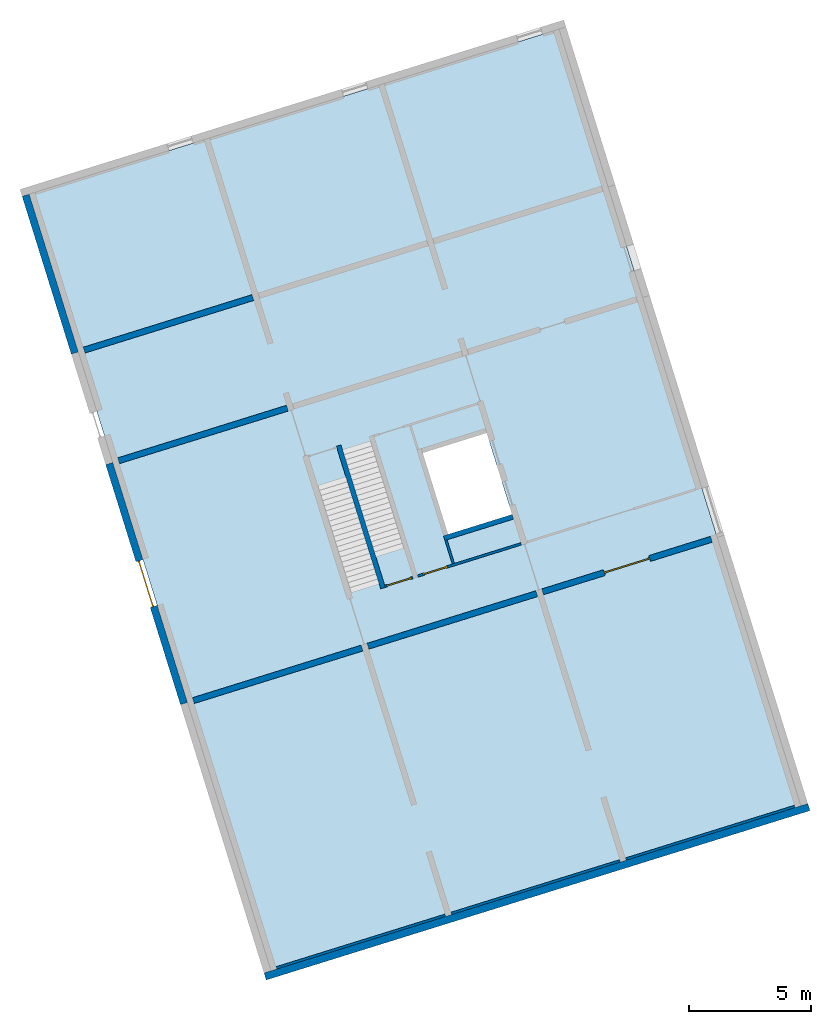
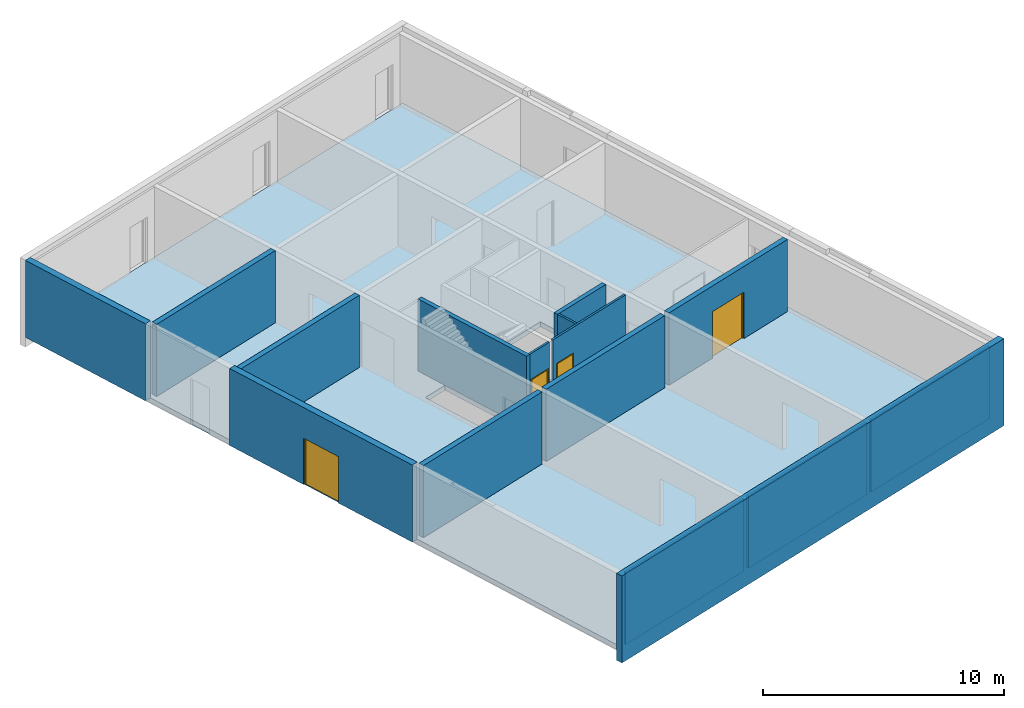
# One storey, part 1 of 5: 16 walls, 4 doors, 1 slab, 9 openings.
"""IFC4 building model written with IfcOpenShell, lengths in metres."""

from ifc_helpers import new_model, entity, si_unit, converted_unit, direction, frame, origin, place, context, subcontext, project, spatial, indexed_curve, outline, extrude, polygons, source, transform, mapped, material, constituent, constituent_set, type_object, type_shapes, element, fill, save


model = new_model("IFC4")

# Units and contexts
model_context = context("Model", 3, precision=1e-05, world=origin(), true_north=direction((6.12323399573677e-17, 1.0)))
body_context = subcontext(model_context, "Body", "Model", "MODEL_VIEW")
ifc_project = project(units=[si_unit("LENGTHUNIT", "METRE"), si_unit("AREAUNIT", "SQUARE_METRE"), si_unit("VOLUMEUNIT", "CUBIC_METRE"), converted_unit("PLANEANGLEUNIT", "DEGREE", entity("IfcPlaneAngleMeasure", 0.0174532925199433), si_unit("PLANEANGLEUNIT", "RADIAN"), dimensions=[0, 0, 0, 0, 0, 0, 0])], contexts=[model_context])

# Site, building, storey
site_placement = place(None, frame((13.1347999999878, 11.9886000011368, 0.0), z_axis=(0.0, 0.0, 1.0), x_axis=(0.954770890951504, 0.297342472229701, 0.0)))
site = spatial("IfcSite", under=ifc_project, at=site_placement, Name="Schiehaven", CompositionType="ELEMENT")
building_placement = place(site_placement, origin())
building = spatial("IfcBuilding", under=site, at=building_placement, Name="VORM huis", CompositionType="ELEMENT")
storey_placement = place(building_placement, origin())
storey = spatial("IfcBuildingStorey", under=building, at=storey_placement, Name="00 begane grond", CompositionType="ELEMENT", Elevation=0.0)

# Slab, openings
ifc_material_1 = material(Name="beton_gewapend_ihw", Category="Miscellaneous")
slab_type = type_object("IfcSlabType", Name="Floor:28_FL_skelet_vloer 250mm", PredefinedType="FLOOR", material=ifc_material_1)
slab_placement = place(storey_placement, origin())
slab = element("IfcSlab", 1, at=slab_placement, inside=storey, type_object=slab_type, material=ifc_material_1, Name="Constructieve vloer", ObjectType="Vloer", PredefinedType="FLOOR", context=body_context, shape_type="SweptSolid", body=[
    extrude(outline(indexed_curve([(-16.6749999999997, -11.3749999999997), (16.6749999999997, -11.3749999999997), (16.6749999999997, 11.3749999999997), (-16.6749999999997, 11.3749999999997), (-16.6749999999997, -11.3749999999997)], self_intersect=False), holes=[indexed_curve([(1.75000000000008, 3.62500000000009), (1.75000000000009, 0.87500000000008), (-1.7499999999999, 0.875000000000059), (-1.74999999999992, 3.62500000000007), (1.75000000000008, 3.62500000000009)], self_intersect=False), indexed_curve([(1.54000000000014, -1.02500000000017), (1.54000000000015, -2.22500000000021), (-1.75999999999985, -2.22500000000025), (-1.75999999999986, -1.02500000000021), (1.54000000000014, -1.02500000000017)], self_intersect=False), indexed_curve([(-1.53999999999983, -3.62500000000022), (-1.53999999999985, -2.42499999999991), (1.76000000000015, -2.42499999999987), (1.76000000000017, -3.62500000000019), (-1.53999999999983, -3.62500000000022)], self_intersect=False)]), frame((68.7500000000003, 17.0499999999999, -0.25), z_axis=(0.0, 0.0, 1.0), x_axis=(0.0, -1.0, 0.0)), (0.0, 0.0, 1.0), 0.25),
])
opening_1_placement = place(slab_placement, origin())
element("IfcOpeningElement", 2, at=opening_1_placement, cuts=slab, Name="Constructieve vloer", PredefinedType="OPENING", context=body_context, shape_type="SweptSolid", body=[
    extrude(outline(indexed_curve([(-1.75, -1.375), (1.75, -1.375), (1.75, 1.37500000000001), (-1.75, 1.37500000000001), (-1.75, -1.375)], self_intersect=False)), frame((71.0, 17.0499999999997, -0.25), z_axis=(0.0, 0.0, 1.0), x_axis=(0.0, 1.0, 0.0)), (0.0, 0.0, 1.0), 0.25),
])
opening_2_placement = place(slab_placement, origin())
element("IfcOpeningElement", 3, at=opening_2_placement, cuts=slab, Name="Constructieve vloer", PredefinedType="OPENING", context=body_context, shape_type="SweptSolid", body=[
    extrude(outline(indexed_curve([(-1.65, -0.60000000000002), (1.65, -0.60000000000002), (1.65, 0.60000000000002), (-1.65, 0.60000000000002), (-1.65, -0.60000000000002)], self_intersect=False)), frame((67.1250000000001, 17.1599999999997, -0.25), z_axis=(0.0, 0.0, 1.0), x_axis=(0.0, 1.0, 0.0)), (0.0, 0.0, 1.0), 0.25),
])

# Walls
wall_type_1 = type_object("IfcWallType", Name="Basic Wall:28_WA_skelet_wand 250mm_gen", PredefinedType="STANDARD")
wall_1_placement = place(storey_placement, frame((65.1250000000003, 11.8999999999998, 0.0)))
element("IfcWall", 4, at=wall_1_placement, inside=storey, type_object=wall_type_1, material=ifc_material_1, Name="Constructieve wand", ObjectType="Wand", PredefinedType="NOTDEFINED", context=body_context, shape_type="SweptSolid", body=[
    extrude(outline(indexed_curve([(7.24999999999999, 0.124999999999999), (1.69940164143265e-15, 0.125), (-1.69940164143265e-15, -0.125), (7.24999999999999, -0.125000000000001), (7.24999999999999, 0.124999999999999)], self_intersect=False)), origin(), (0.0, 0.0, 1.0), 3.65),
])
ifc_material_2 = material(Name="ntb_ntb_ntb", Category="Miscellaneous")
wall_type_2 = type_object("IfcWallType", Name="Basic Wall:21_WA_gevel_binnenspouwwand 100mm_gen", PredefinedType="STANDARD")
wall_2_placement = place(storey_placement, frame((79.8750000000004, 0.424999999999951, 0.0), z_axis=(0.0, 0.0, 1.0), x_axis=(-1.0, 0.0, 0.0)))
element("IfcWall", 5, at=wall_2_placement, inside=storey, type_object=wall_type_2, material=ifc_material_2, Name="Binnenspouwblad", ObjectType="Wand", PredefinedType="NOTDEFINED", context=body_context, shape_type="SweptSolid", body=[
    extrude(outline(indexed_curve([(7.24999999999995, 0.05), (8.31549082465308e-16, 0.05), (-8.31549082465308e-16, -0.05), (7.24999999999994, -0.05), (7.24999999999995, 0.05)], self_intersect=False)), origin(), (0.0, 0.0, 1.0), 3.65),
])
wall_3_placement = place(storey_placement, frame((65.1250000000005, 0.424999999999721, 0.0)))
element("IfcWall", 6, at=wall_3_placement, inside=storey, type_object=wall_type_2, material=ifc_material_2, Name="Binnenspouwblad", ObjectType="Wand", PredefinedType="NOTDEFINED", context=body_context, shape_type="SweptSolid", body=[
    extrude(outline(indexed_curve([(7.24999999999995, 0.05), (9.8574233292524e-16, 0.05), (-9.8574233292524e-16, -0.05), (7.24999999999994, -0.05), (7.24999999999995, 0.05)], self_intersect=False)), origin(), (0.0, 0.0, 1.0), 3.65),
])
wall_4_placement = place(storey_placement, frame((64.8750000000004, 0.424999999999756, 0.0), z_axis=(0.0, 0.0, 1.0), x_axis=(-1.0, 0.0, 0.0)))
element("IfcWall", 7, at=wall_4_placement, inside=storey, type_object=wall_type_2, material=ifc_material_2, Name="Binnenspouwblad", ObjectType="Wand", PredefinedType="NOTDEFINED", context=body_context, shape_type="SweptSolid", body=[
    extrude(outline(indexed_curve([(7.24999999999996, 0.05), (8.31549082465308e-16, 0.05), (-8.31549082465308e-16, -0.05), (7.24999999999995, -0.05), (7.24999999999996, 0.05)], self_intersect=False)), origin(), (0.0, 0.0, 1.0), 3.65),
])
wall_type_3 = type_object("IfcWallType", Name="Basic Wall: 300mm_gen", PredefinedType="STANDARD")
wall_5_placement = place(storey_placement, frame((57.0750000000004, 0.224999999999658, -0.5)))
element("IfcWall", 8, at=wall_5_placement, inside=storey, type_object=wall_type_3, material=ifc_material_2, Name="Gevelwand", ObjectType="Wand", PredefinedType="NOTDEFINED", context=body_context, shape_type="SweptSolid", body=[
    extrude(outline(indexed_curve([(23.3500000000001, 0.15), (2.24820162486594e-15, 0.15), (-2.24820162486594e-15, -0.15), (23.35, -0.15), (23.3500000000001, 0.15)], self_intersect=False)), origin(), (0.0, 0.0, 1.0), 4.4),
])
wall_6_placement = place(storey_placement, frame((57.2249999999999, 33.7249999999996, 0.0), z_axis=(0.0, 0.0, 1.0), x_axis=(0.0, -1.0, 0.0)))
element("IfcWall", 9, at=wall_6_placement, inside=storey, type_object=wall_type_3, material=ifc_material_2, Name="Gevelwand", ObjectType="Wand", PredefinedType="NOTDEFINED", context=body_context, shape_type="SweptSolid", body=[
    extrude(outline(indexed_curve([(6.77500000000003, 0.150000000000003), (2.25173814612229e-15, 0.150000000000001), (6.41119888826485e-15, -0.150000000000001), (6.77500000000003, -0.149999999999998), (6.77500000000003, 0.150000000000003)], self_intersect=False)), origin(), (0.0, 0.0, 1.0), 3.9),
])

# Wall, openings, door
wall_7_placement = place(storey_placement, frame((57.2250000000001, 22.1999999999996, 0.0), z_axis=(0.0, 0.0, 1.0), x_axis=(0.0, -1.0, 0.0)))
wall_7 = element("IfcWall", 10, at=wall_7_placement, inside=storey, type_object=wall_type_3, material=ifc_material_2, Name="Gevelwand", ObjectType="Wand", PredefinedType="NOTDEFINED", context=body_context, shape_type="Tessellation", body=[
    polygons([(6.13249999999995, -0.15, 2.34999999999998), (6.13249999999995, -0.15, 0.0), (10.2999999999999, -0.150000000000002, 0.0), (10.2999999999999, -0.150000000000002, 3.9), (0.0, -0.149999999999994, 3.9), (0.0, -0.149999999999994, 0.0), (4.16749999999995, -0.149999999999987, 0.0), (4.16749999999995, -0.149999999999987, 2.34999999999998), (10.3, 0.149999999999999, 0.0), (6.13249999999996, 0.150000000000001, 0.0), (6.13249999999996, 0.150000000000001, 2.34999999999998), (4.16749999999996, 0.150000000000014, 2.34999999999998), (4.16749999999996, 0.150000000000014, 0.0), (4.33146851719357e-15, 0.150000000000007, 0.0), (4.33146851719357e-15, 0.150000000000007, 3.9), (10.3, 0.149999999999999, 3.9)], [[[1, 2, 3, 4, 5, 6, 7, 8]], [[9, 10, 11, 12, 13, 14, 15, 16]], [[7, 6, 14, 13]], [[4, 3, 9, 16]], [[5, 4, 16, 15]], [[6, 5, 15, 14]], [[12, 11, 1, 8]], [[11, 10, 2, 1]], [[13, 12, 8, 7]], [[3, 2, 10, 9]]], closed=True),
])
opening_3_placement = place(wall_7_placement, frame((6.13249999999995, 0.150000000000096, 0.0)))
opening_3 = element("IfcOpeningElement", 11, at=opening_3_placement, cuts=wall_7, Name="Vluchtdeur", PredefinedType="OPENING", context=body_context, shape_type="SweptSolid", body=[
    extrude(outline(indexed_curve([(2.34999999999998, 1.965), (0.0, 1.965), (0.0, 0.0), (2.34999999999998, 0.0), (2.34999999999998, 1.965)], self_intersect=False)), frame((0.0, 0.0, 0.0), z_axis=(0.0, -1.0, 0.0), x_axis=(0.0, 0.0, 1.0)), (0.0, 0.0, 1.0), 0.3),
])
opening_4_placement = place(wall_7_placement, frame((22.1999999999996, -57.2250000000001, 0.0), z_axis=(0.0, 0.0, 1.0), x_axis=(0.0, 1.0, 0.0)))
element("IfcOpeningElement", 12, at=opening_4_placement, cuts=wall_7, Name="Vluchtdeur", PredefinedType="OPENING", context=body_context, shape_type="SweptSolid", body=[
    extrude(outline(indexed_curve([(-0.982500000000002, -1.17499999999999), (0.982500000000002, -1.17499999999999), (0.9825, 1.17499999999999), (-0.982500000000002, 1.17499999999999), (-0.982500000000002, -1.17499999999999)], self_intersect=False)), frame((55.8510000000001, 17.0499999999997, 1.17499999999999), z_axis=(1.0, 0.0, 0.0), x_axis=(0.0, -1.0, 0.0)), (0.0, 0.0, 1.0), 3.048),
])
ifc_material_3 = material(Name="PD_a_buitenwandopeningen", Category="Miscellaneous")
ifc_constituent_1 = constituent(ifc_material_3, Name="PD_a_buitenwandopeningen", Category="Miscellaneous")
ifc_material_4 = material(Name="metaal_aluminium_ntb", Category="Miscellaneous")
ifc_constituent_2 = constituent(ifc_material_4, Name="metaal_aluminium_ntb", Category="Miscellaneous")
ifc_constituent_set_1 = constituent_set(constituents=[ifc_constituent_1, ifc_constituent_2])
ifc_constituent_3 = constituent(ifc_material_3, Name="PD_a_buitenwandopeningen", Category="Miscellaneous")
ifc_constituent_4 = constituent(ifc_material_4, Name="Panel", Category="Miscellaneous")
ifc_constituent_set_2 = constituent_set(constituents=[ifc_constituent_3, ifc_constituent_4])
door_type_1 = type_object("IfcDoorType", Name="31_DO_buitendeur dubbel:buitendeur zelfsluitend 30min", OperationType="NOTDEFINED", PredefinedType="DOOR", material=ifc_constituent_set_2)
shared_shape_1 = source(origin(), body_context, "Body", "SweptSolid", [
    extrude(outline(indexed_curve([(-1.16249999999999, -0.982500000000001), (1.18749999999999, -0.982500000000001), (1.18749999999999, 0.982500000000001), (-1.16249999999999, 0.982500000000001), (-1.16249999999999, 0.932499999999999), (1.13749999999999, 0.9325), (1.13749999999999, -0.932499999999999), (-1.16249999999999, -0.932499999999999), (-1.16249999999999, -0.982500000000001)], self_intersect=False)), frame((0.982500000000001, 0.130000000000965, 1.16249999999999), z_axis=(0.0, 1.0, 0.0), x_axis=(0.0, 0.0, 1.0)), (0.0, 0.0, 1.0), 0.1),
    extrude(outline(indexed_curve([(-0.025, -0.466249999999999), (0.025, -0.466249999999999), (0.025, 0.466249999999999), (-0.025, 0.466249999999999), (-0.025, -0.466249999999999)], self_intersect=False)), frame((1.44875, 0.180000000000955, 0.0), z_axis=(0.0, 0.0, 1.0), x_axis=(0.0, 1.0, 0.0)), (0.0, 0.0, 1.0), 2.29999999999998),
    extrude(outline(indexed_curve([(-0.0249999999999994, -0.46625), (0.0250000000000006, -0.46625), (0.0249999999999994, 0.46625), (-0.0250000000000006, 0.466249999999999), (-0.0249999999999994, -0.46625)], self_intersect=False)), frame((0.516250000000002, 0.180000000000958, 0.0), z_axis=(0.0, 0.0, 1.0), x_axis=(0.0, 1.0, 0.0)), (0.0, 0.0, 1.0), 2.29999999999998),
])
type_shapes(door_type_1, [shared_shape_1])
door_1_placement = place(opening_3_placement, frame((0.0, 0.0, 0.0), z_axis=(0.0, 0.0, 1.0), x_axis=(-1.0, 0.0, 0.0)))
door_1 = element("IfcDoor", 13, at=door_1_placement, inside=storey, type_object=door_type_1, material=ifc_constituent_set_1, Name="Vluchtdeur", ObjectType="Deur", OperationType="NOTDEFINED", OverallHeight=2.34999999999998, OverallWidth=1.965, PredefinedType="DOOR", context=body_context, shape_type="MappedRepresentation", body=[
    mapped(shared_shape_1, transform((0.0, 0.0, 0.0), scale=1.0)),
])
fill(opening_3, door_1)

# Walls
ifc_material_5 = material(Name="beton_gewapend_prefab-element", Category="Miscellaneous")
wall_type_4 = type_object("IfcWallType", Name="Basic Wall:28_WA_skelet_wand 200mm_gen", PredefinedType="STANDARD")
wall_8_placement = place(storey_placement, frame((72.3750000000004, 15.2000000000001, 0.0), z_axis=(0.0, 0.0, 1.0), x_axis=(-1.0, 0.0, 0.0)))
element("IfcWall", 14, at=wall_8_placement, inside=storey, type_object=wall_type_4, material=ifc_material_5, Name="Constructieve wand", ObjectType="Wand", PredefinedType="NOTDEFINED", context=body_context, shape_type="SweptSolid", body=[
    extrude(outline(indexed_curve([(2.95000000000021, 0.100000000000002), (3.51397851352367e-16, 0.100000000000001), (-3.51397851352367e-16, -0.100000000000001), (2.95000000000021, -0.100000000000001), (2.95000000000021, 0.100000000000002)], self_intersect=False)), origin(), (0.0, 0.0, 1.0), 3.65),
])
wall_9_placement = place(storey_placement, frame((66.4250000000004, 13.9899999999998, 0.0), z_axis=(0.0, 0.0, 1.0), x_axis=(0.0, 1.0, 0.0)))
element("IfcWall", 15, at=wall_9_placement, inside=storey, type_object=wall_type_4, material=ifc_material_5, Name="Constructieve wand", ObjectType="Wand", PredefinedType="NOTDEFINED", context=body_context, shape_type="SweptSolid", body=[
    extrude(outline(indexed_curve([(6.12000000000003, 0.100000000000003), (7.077562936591e-16, 0.100000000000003), (-7.077562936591e-16, -0.100000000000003), (6.12000000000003, -0.100000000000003), (6.12000000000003, 0.100000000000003)], self_intersect=False)), origin(), (0.0, 0.0, 1.0), 3.65),
])
wall_type_5 = type_object("IfcWallType", Name="Basic Wall:22_WA_afbouw_binnenwand 250mm_gen", PredefinedType="STANDARD")
wall_10_placement = place(storey_placement, frame((64.8750000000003, 11.8999999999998, 0.0), z_axis=(0.0, 0.0, 1.0), x_axis=(-1.0, 0.0, 0.0)))
element("IfcWall", 16, at=wall_10_placement, inside=storey, type_object=wall_type_5, material=ifc_material_2, Name="Binnenwand", ObjectType="Wand", PredefinedType="NOTDEFINED", context=body_context, shape_type="SweptSolid", body=[
    extrude(outline(indexed_curve([(7.24999999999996, 0.124999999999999), (1.80881749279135e-15, 0.125), (-1.80881749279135e-15, -0.125), (7.24999999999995, -0.125000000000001), (7.24999999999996, 0.124999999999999)], self_intersect=False)), origin(), (0.0, 0.0, 1.0), 3.65),
])

# Wall, opening, door
wall_11_placement = place(storey_placement, frame((72.6250000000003, 11.8999999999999, 0.0)))
wall_11 = element("IfcWall", 17, at=wall_11_placement, inside=storey, type_object=wall_type_5, material=ifc_material_2, Name="Binnenwand", ObjectType="Wand", PredefinedType="NOTDEFINED", context=body_context, shape_type="Tessellation", body=[
    polygons([(4.59999999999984, -0.124999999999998, 2.34999999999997), (4.59999999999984, -0.124999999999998, 0.0), (7.24999999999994, -0.124999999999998, 0.0), (7.24999999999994, -0.124999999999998, 3.65), (-1.10866126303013e-14, -0.125, 3.65), (-1.10866126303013e-14, -0.125, 0.0), (2.64999999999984, -0.124999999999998, 0.0), (2.64999999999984, -0.124999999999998, 2.34999999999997), (7.24999999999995, 0.125000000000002, 0.0), (4.59999999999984, 0.125000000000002, 0.0), (4.59999999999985, 0.125000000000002, 2.34999999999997), (2.64999999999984, 0.125000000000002, 2.34999999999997), (2.64999999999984, 0.125000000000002, 0.0), (-7.45954118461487e-15, 0.125, 0.0), (-7.45954118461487e-15, 0.125, 3.65), (7.24999999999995, 0.125000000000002, 3.65)], [[[1, 2, 3, 4, 5, 6, 7, 8]], [[9, 10, 11, 12, 13, 14, 15, 16]], [[7, 6, 14, 13]], [[4, 3, 9, 16]], [[5, 4, 16, 15]], [[6, 5, 15, 14]], [[13, 12, 8, 7]], [[11, 10, 2, 1]], [[12, 11, 1, 8]], [[3, 2, 10, 9]]], closed=True),
])
opening_5_placement = place(wall_11_placement, frame((2.64999999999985, -0.124999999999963, 0.0)))
opening_5 = element("IfcOpeningElement", 18, at=opening_5_placement, cuts=wall_11, Name="Vluchtdeur", PredefinedType="OPENING", context=body_context, shape_type="SweptSolid", body=[
    extrude(outline(indexed_curve([(2.34999999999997, 0.0), (2.34999999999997, 1.95000000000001), (0.0, 1.95), (0.0, 0.0), (2.34999999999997, 0.0)], self_intersect=False)), frame((0.0, 0.0, 0.0), z_axis=(0.0, 1.0, 0.0), x_axis=(0.0, 0.0, 1.0)), (0.0, 0.0, 1.0), 0.25),
])
ifc_material_6 = material(Name="PD_a_binnenwandopeningen", Category="Miscellaneous")
ifc_constituent_5 = constituent(ifc_material_6, Name="PD_a_binnenwandopeningen", Category="Miscellaneous")
ifc_constituent_6 = constituent(ifc_material_4, Name="metaal_aluminium_ntb", Category="Miscellaneous")
ifc_constituent_set_3 = constituent_set(constituents=[ifc_constituent_5, ifc_constituent_6])
ifc_constituent_7 = constituent(ifc_material_6, Name="PD_a_binnenwandopeningen", Category="Miscellaneous")
ifc_constituent_8 = constituent(ifc_material_4, Name="Panel", Category="Miscellaneous")
ifc_constituent_set_4 = constituent_set(constituents=[ifc_constituent_7, ifc_constituent_8])
door_type_2 = type_object("IfcDoorType", Name="32_DO_binnendeur dubbel:binnendeur zelfsluitend 30min", OperationType="NOTDEFINED", PredefinedType="DOOR", material=ifc_constituent_set_4)
shared_shape_2 = source(origin(), body_context, "Body", "SweptSolid", [
    extrude(outline(indexed_curve([(0.925, -1.16249999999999), (0.975, -1.16249999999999), (0.975, 1.18749999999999), (-0.975, 1.18749999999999), (-0.975, -1.16249999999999), (-0.925, -1.16249999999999), (-0.925, 1.13749999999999), (0.925, 1.13749999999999), (0.925, -1.16249999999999)], self_intersect=False)), frame((0.975000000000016, 0.175000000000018, 1.16249999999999), z_axis=(0.0, -1.0, 0.0), x_axis=(1.0, 0.0, 0.0)), (0.0, 0.0, 1.0), 0.1),
    extrude(outline(indexed_curve([(-0.462499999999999, -0.025), (0.462499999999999, -0.025), (0.462499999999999, 0.025), (-0.462499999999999, 0.025), (-0.462499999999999, -0.025)], self_intersect=False)), frame((0.512500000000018, 0.124999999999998, 0.0)), (0.0, 0.0, 1.0), 2.29999999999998),
    extrude(outline(indexed_curve([(-0.4625, -0.025), (0.4625, -0.025), (0.4625, 0.025), (-0.4625, 0.025), (-0.4625, -0.025)], self_intersect=False)), frame((1.43750000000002, 0.125000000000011, 0.0)), (0.0, 0.0, 1.0), 2.29999999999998),
])
type_shapes(door_type_2, [shared_shape_2])
door_2_placement = place(opening_5_placement, origin())
door_2 = element("IfcDoor", 19, at=door_2_placement, inside=storey, type_object=door_type_2, material=ifc_constituent_set_3, Name="Vluchtdeur", ObjectType="Deur", OperationType="NOTDEFINED", OverallHeight=2.34999999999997, OverallWidth=1.95000000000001, PredefinedType="DOOR", context=body_context, shape_type="MappedRepresentation", body=[
    mapped(shared_shape_2, transform((0.0, 0.0, 0.0), scale=1.0)),
])
fill(opening_5, door_2)

# Walls
for number, where, z_axis, x_axis in (
    (20, (64.875, 26.9499999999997, 0.0), (0.0, 0.0, 1.0), (-1.0, 0.0, 0.0)),
    (21, (64.8750000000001, 22.1999999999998, 0.0), (0.0, 0.0, 1.0), (-1.0, 0.0, 0.0)),
):
    element("IfcWall", number, at=place(storey_placement, frame(where, z_axis=z_axis, x_axis=x_axis)), inside=storey, type_object=wall_type_5, material=ifc_material_2, Name="Binnenwand", ObjectType="Wand", PredefinedType="NOTDEFINED", context=body_context, shape_type="SweptSolid", body=[
        extrude(outline(indexed_curve([(7.24999999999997, 0.125000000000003), (2.22995564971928e-15, 0.125000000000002), (-2.22995564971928e-15, -0.125000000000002), (7.24999999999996, -0.125000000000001), (7.24999999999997, 0.125000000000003)], self_intersect=False)), origin(), (0.0, 0.0, 1.0), 3.65),
    ])

# Wall, openings, door
wall_type_6 = type_object("IfcWallType", Name="Basic Wall:22_WA_afbouw_binnenwand 100mm_gen", PredefinedType="STANDARD")
wall_12_placement = place(storey_placement, frame((66.5250000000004, 14.0399999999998, 0.0)))
wall_12 = element("IfcWall", 22, at=wall_12_placement, inside=storey, type_object=wall_type_6, material=ifc_material_2, Name="Binnenwand", ObjectType="Wand", PredefinedType="NOTDEFINED", context=body_context, shape_type="Tessellation", body=[
    polygons([(-2.16573425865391e-16, -0.0499999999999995, 0.0), (0.0749999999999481, -0.0499999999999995, 0.0), (0.0749999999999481, -0.0499999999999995, 2.34999999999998), (1.12499999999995, -0.0499999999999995, 2.34999999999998), (1.12499999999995, -0.0499999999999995, 0.0), (1.2, -0.0499999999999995, 0.0), (1.2, -0.0499999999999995, 3.65), (-2.16573425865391e-16, -0.0499999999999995, 3.65), (0.0749999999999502, 0.0499999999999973, 2.34999999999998), (0.0749999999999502, 0.0499999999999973, 0.0), (1.94916083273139e-15, 0.0499999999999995, 0.0), (1.94916083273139e-15, 0.0499999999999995, 3.65), (1.20000000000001, 0.0499999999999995, 3.65), (1.20000000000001, 0.0499999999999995, 0.0), (1.12499999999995, 0.0499999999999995, 0.0), (1.12499999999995, 0.0499999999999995, 2.34999999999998)], [[[1, 2, 3, 4, 5, 6, 7, 8]], [[9, 10, 11, 12, 13, 14, 15, 16]], [[11, 10, 2, 1]], [[7, 6, 14, 13]], [[8, 7, 13, 12]], [[1, 8, 12, 11]], [[5, 4, 16, 15]], [[3, 2, 10, 9]], [[4, 3, 9, 16]], [[15, 14, 6, 5]]], closed=True),
])
opening_6_placement = place(wall_12_placement, frame((1.12499999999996, 0.0500000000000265, 0.0)))
opening_6 = element("IfcOpeningElement", 23, at=opening_6_placement, cuts=wall_12, Name="Vluchtdeur", PredefinedType="OPENING", context=body_context, shape_type="SweptSolid", body=[
    extrude(outline(indexed_curve([(2.34999999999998, 2.34520243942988e-29), (2.34999999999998, 1.05), (0.0, 1.05), (0.0, 2.34520243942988e-29), (2.34999999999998, 2.34520243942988e-29)], self_intersect=False)), frame((0.0, 0.0, 0.0), z_axis=(0.0, -1.0, 0.0), x_axis=(0.0, 0.0, 1.0)), (0.0, 0.0, 1.0), 0.1),
])
opening_7_placement = place(wall_12_placement, frame((-66.5250000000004, -14.0399999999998, 0.0)))
element("IfcOpeningElement", 24, at=opening_7_placement, cuts=wall_12, Name="Vluchtdeur", PredefinedType="OPENING", context=body_context, shape_type="SweptSolid", body=[
    extrude(outline(indexed_curve([(-1.17499999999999, -0.525000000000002), (1.17499999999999, -0.525000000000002), (1.17499999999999, 0.525000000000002), (-1.17499999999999, 0.525000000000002), (-1.17499999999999, -0.525000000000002)], self_intersect=False)), frame((67.1250000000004, 12.5659999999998, 1.17499999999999), z_axis=(0.0, 1.0, 0.0), x_axis=(0.0, 0.0, -1.0)), (0.0, 0.0, 1.0), 3.048),
])
ifc_constituent_9 = constituent(ifc_material_6, Name="PD_a_binnenwandopeningen", Category="Miscellaneous")
ifc_constituent_10 = constituent(ifc_material_4, Name="metaal_aluminium_ntb", Category="Miscellaneous")
ifc_constituent_set_5 = constituent_set(constituents=[ifc_constituent_9, ifc_constituent_10])
ifc_constituent_11 = constituent(ifc_material_6, Name="PD_a_binnenwandopeningen", Category="Miscellaneous")
ifc_constituent_12 = constituent(ifc_material_4, Name="Panel", Category="Miscellaneous")
ifc_constituent_set_6 = constituent_set(constituents=[ifc_constituent_11, ifc_constituent_12])
door_type_3 = type_object("IfcDoorType", Name="32_DO_binnendeur enkel:binnendeur zelfsluitend 30min", OperationType="NOTDEFINED", PredefinedType="DOOR", material=ifc_constituent_set_6)
shared_shape_3 = source(origin(), body_context, "Body", "SweptSolid", [
    extrude(outline(indexed_curve([(0.475, -1.16249999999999), (0.525, -1.16249999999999), (0.525, 1.18749999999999), (-0.525, 1.18749999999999), (-0.525, -1.16249999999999), (-0.475, -1.16249999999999), (-0.475, 1.13749999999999), (0.475, 1.13749999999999), (0.475, -1.16249999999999)], self_intersect=False)), frame((0.525000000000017, 0.100000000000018, 1.16249999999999), z_axis=(0.0, -1.0, 0.0), x_axis=(1.0, 0.0, 0.0)), (0.0, 0.0, 1.0), 0.1),
    extrude(outline(indexed_curve([(-0.475, -0.025), (0.475, -0.025), (0.475, 0.025), (-0.475, 0.025), (-0.475, -0.025)], self_intersect=False)), frame((0.525000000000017, 0.0499999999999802, 0.0)), (0.0, 0.0, 1.0), 2.29999999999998),
])
type_shapes(door_type_3, [shared_shape_3])
door_3_placement = place(opening_6_placement, frame((0.0, 0.0, 0.0), z_axis=(0.0, 0.0, 1.0), x_axis=(-1.0, 0.0, 0.0)))
door_3 = element("IfcDoor", 25, at=door_3_placement, inside=storey, type_object=door_type_3, material=ifc_constituent_set_5, Name="Vluchtdeur", ObjectType="Deur", OperationType="NOTDEFINED", OverallHeight=2.34999999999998, OverallWidth=1.05, PredefinedType="DOOR", context=body_context, shape_type="MappedRepresentation", body=[
    mapped(shared_shape_3, transform((0.0, 0.0, 0.0), scale=1.0)),
])
fill(opening_6, door_3)

# Wall
wall_13_placement = place(storey_placement, frame((69.4750000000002, 14.0899999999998, 0.0), z_axis=(0.0, 0.0, 1.0), x_axis=(0.0, 1.0, 0.0)))
element("IfcWall", 26, at=wall_13_placement, inside=storey, type_object=wall_type_6, material=ifc_material_2, Name="Binnenwand", ObjectType="Wand", PredefinedType="NOTDEFINED", context=body_context, shape_type="SweptSolid", body=[
    extrude(outline(indexed_curve([(1.01, 0.0499999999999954), (9.53176740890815e-16, 0.0499999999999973), (-9.53176740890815e-16, -0.0499999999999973), (1.01, -0.0499999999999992), (1.01, 0.0499999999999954)], self_intersect=False)), origin(), (0.0, 0.0, 1.0), 3.65),
])

# Wall, openings, door
wall_14_placement = place(storey_placement, frame((67.9250000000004, 14.0399999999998, 0.0)))
wall_14 = element("IfcWall", 27, at=wall_14_placement, inside=storey, type_object=wall_type_6, material=ifc_material_2, Name="Binnenwand", ObjectType="Wand", PredefinedType="NOTDEFINED", context=body_context, shape_type="Tessellation", body=[
    polygons([(8.76027340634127e-17, -0.0500000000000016, 0.0), (0.22499999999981, -0.0499999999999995, 0.0), (0.22499999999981, -0.0499999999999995, 2.34999999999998), (1.27499999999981, -0.0500000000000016, 2.34999999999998), (1.27499999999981, -0.0500000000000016, 0.0), (4.44999999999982, -0.0499999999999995, 0.0), (4.44999999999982, -0.0499999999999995, 3.65), (8.76027340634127e-17, -0.0500000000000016, 3.65), (0.224999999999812, 0.0499999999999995, 2.34999999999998), (0.224999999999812, 0.0499999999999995, 0.0), (2.13166652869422e-15, 0.0499999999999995, 0.0), (2.13166652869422e-15, 0.0499999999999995, 3.65), (1.49999999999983, 0.0499999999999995, 3.65), (1.59999999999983, 0.0499999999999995, 3.65), (4.44999999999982, 0.0499999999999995, 3.65), (4.44999999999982, 0.0499999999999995, 0.0), (1.59999999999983, 0.0499999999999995, 0.0), (1.49999999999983, 0.0499999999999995, 0.0), (1.27499999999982, 0.0499999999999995, 0.0), (1.27499999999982, 0.0499999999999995, 2.34999999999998)], [[[1, 2, 3, 4, 5, 6, 7, 8]], [[9, 10, 11, 12, 13, 14, 15, 16, 17, 18, 19, 20]], [[11, 10, 2, 1]], [[7, 6, 16, 15]], [[8, 7, 15, 14, 13, 12]], [[1, 8, 12, 11]], [[4, 3, 9, 20]], [[3, 2, 10, 9]], [[5, 4, 20, 19]], [[19, 18, 17, 16, 6, 5]]], closed=True),
])
opening_8_placement = place(wall_14_placement, frame((1.27499999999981, 0.0500000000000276, 0.0)))
opening_8 = element("IfcOpeningElement", 28, at=opening_8_placement, cuts=wall_14, Name="Vluchtdeur", PredefinedType="OPENING", context=body_context, shape_type="SweptSolid", body=[
    extrude(outline(indexed_curve([(2.34999999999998, 0.0), (2.34999999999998, 1.05), (0.0, 1.05), (0.0, 0.0), (2.34999999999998, 0.0)], self_intersect=False)), frame((0.0, 0.0, 0.0), z_axis=(0.0, -1.0, 0.0), x_axis=(0.0, 0.0, 1.0)), (0.0, 0.0, 1.0), 0.1),
])
opening_9_placement = place(wall_14_placement, frame((-67.9250000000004, -14.0399999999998, 0.0)))
element("IfcOpeningElement", 29, at=opening_9_placement, cuts=wall_14, Name="Vluchtdeur", PredefinedType="OPENING", context=body_context, shape_type="SweptSolid", body=[
    extrude(outline(indexed_curve([(-1.17499999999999, -0.525000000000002), (1.17499999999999, -0.525000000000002), (1.17499999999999, 0.525000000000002), (-1.17499999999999, 0.525000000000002), (-1.17499999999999, -0.525000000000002)], self_intersect=False)), frame((68.6750000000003, 12.5659999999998, 1.17499999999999), z_axis=(0.0, 1.0, 0.0), x_axis=(0.0, 0.0, -1.0)), (0.0, 0.0, 1.0), 3.048),
])
ifc_constituent_13 = constituent(ifc_material_6, Name="PD_a_binnenwandopeningen", Category="Miscellaneous")
ifc_constituent_14 = constituent(ifc_material_4, Name="metaal_aluminium_ntb", Category="Miscellaneous")
ifc_constituent_set_7 = constituent_set(constituents=[ifc_constituent_13, ifc_constituent_14])
door_4_placement = place(opening_8_placement, frame((0.0, 0.0, 0.0), z_axis=(0.0, 0.0, 1.0), x_axis=(-1.0, 0.0, 0.0)))
door_4 = element("IfcDoor", 30, at=door_4_placement, inside=storey, type_object=door_type_3, material=ifc_constituent_set_7, Name="Vluchtdeur", ObjectType="Deur", OperationType="NOTDEFINED", OverallHeight=2.34999999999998, OverallWidth=1.05, PredefinedType="DOOR", context=body_context, shape_type="MappedRepresentation", body=[
    mapped(shared_shape_3, transform((0.0, 0.0, 0.0), scale=1.0)),
])
fill(opening_8, door_4)

save(model, "model.ifc")
